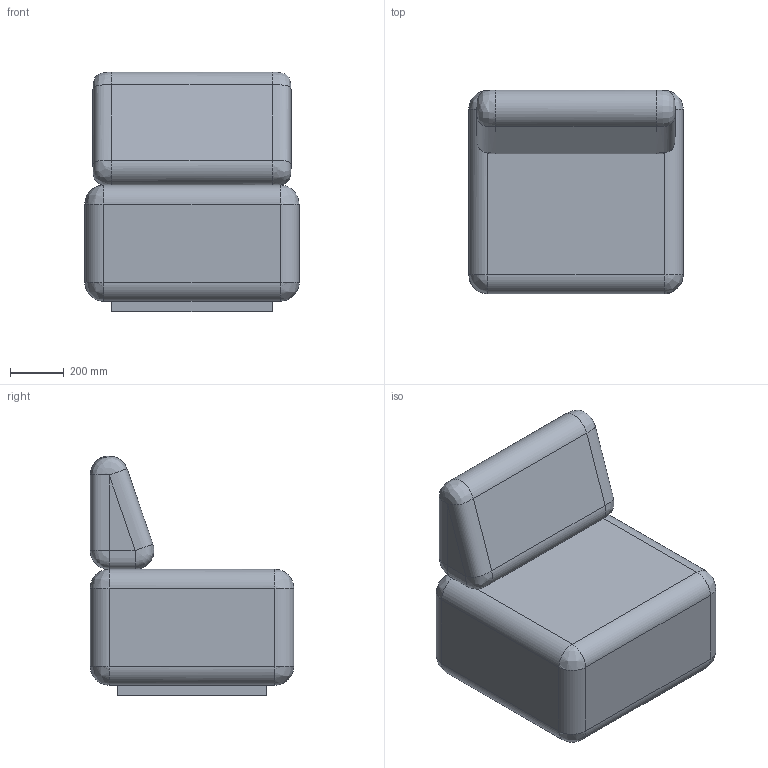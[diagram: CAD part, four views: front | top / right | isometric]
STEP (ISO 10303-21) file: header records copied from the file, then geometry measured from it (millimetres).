
FILE_DESCRIPTION(/* description */ (''),/* implementation_level */ '2;1');
FILE_NAME(/* name */ '220318_Zadkine_One seater 3D',/* time_stamp */ '2022-03-24T21:37:05+01:00',/* author */ (''),/* organization */ (''),/* preprocessor_version */ 'ST-DEVELOPER v16.5',/* originating_system */ 'Rhino 7.16',/* authorisation */ '');
FILE_SCHEMA (('CONFIG_CONTROL_DESIGN'));
Length unit declared in the file: millimetre
Products named in the file (1): Document
Bounding box: 795 x 755 x 890.2 mm (x, y, z)
Volume: 318326408.4 mm3; surface area: 3965623.5 mm2
Topology: 3 solids, 3 shells, 52 faces, 121 edges, 74 vertices
Faces by surface type: bspline 52
Entity records: 3642 total; most frequent: CARTESIAN_POINT 2212, B_SPLINE_CURVE_WITH_KNOTS 277, ORIENTED_EDGE 204, PCURVE 204, DEFINITIONAL_REPRESENTATION 204, SURFACE_CURVE 102, EDGE_CURVE 102, VERTEX_POINT 56
